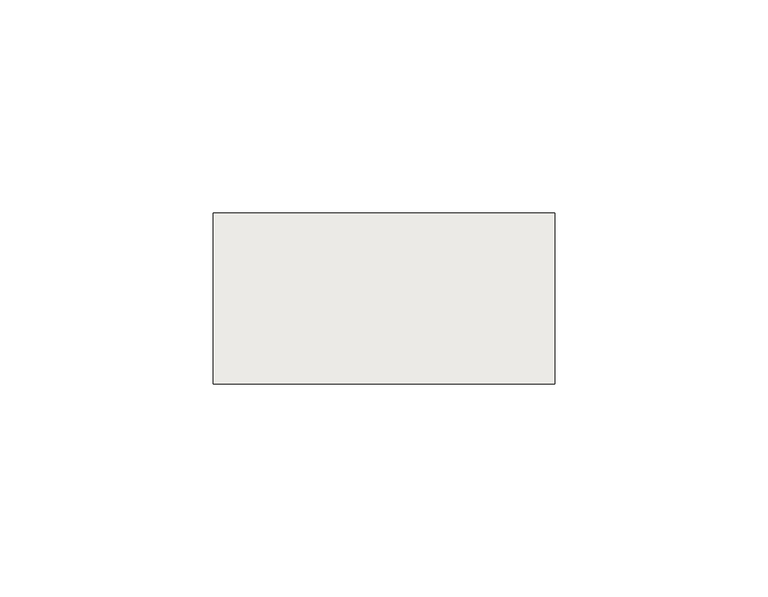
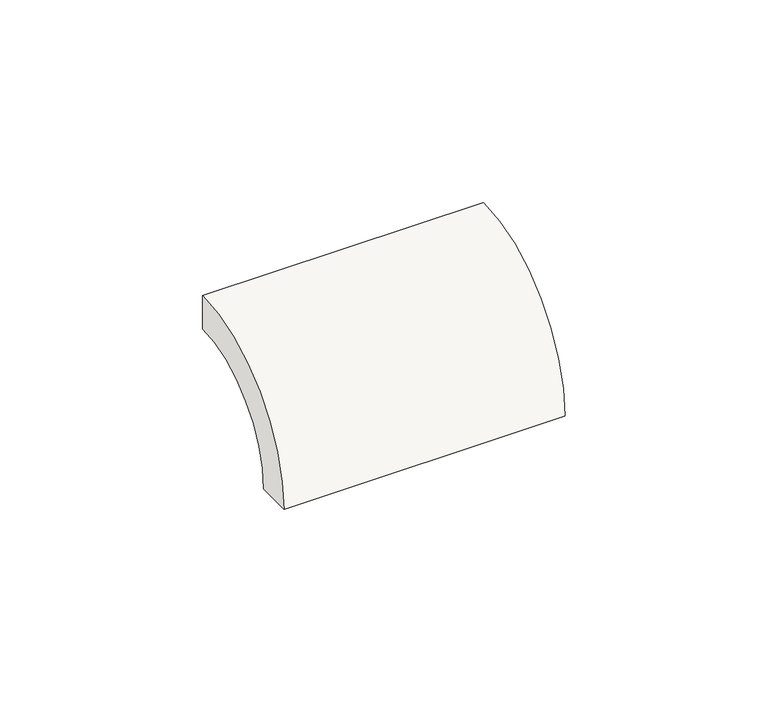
"""IFC4 building model written with IfcOpenShell, lengths in millimetres: slab geometry, ROSA GRES_138 : Pieza 138_Aqua_Marino_Liso."""

from ifc_helpers import new_model, si_unit, point, frame, frame_2d, origin, origin_2d, place, context, project, spatial, polyline, circle_curve, trimmed, segment, composite_curve, outline, extrude, source, transform, mapped, element, save


def slab_c012ca34(model_context):
    return source(origin(), model_context, "Body", "SweptSolid", [
        extrude(outline(composite_curve([segment(polyline([(0.0, 40.0), (0.0, 30.0265886)]), True, "CONTINUOUS"), segment(trimmed(circle_curve(frame_2d((-0.0044453, 0.0044453)), 30.0221435), [point((0.0, 30.0265886))], [point((-30.0265886, 0.0))], True, "CARTESIAN"), True, "CONTINUOUS"), segment(polyline([(-30.0265886, 0.0), (-40.0, 0.0)]), True, "CONTINUOUS"), segment(trimmed(circle_curve(origin_2d(), 40.0), [point((-40.0, 0.0))], [point((0.0, 40.0))], False, "CARTESIAN"), True, "CONTINUOUS")], self_intersect=False)), frame((0.0, 0.0, 0.0), z_axis=(1.0, 0.0, 0.0), x_axis=(0.0, 1.0, 0.0)), (0.0, 0.0, 1.0), 80.0),
    ])


if __name__ == "__main__":
    model = new_model("IFC4")
    model_context = context("Model", 3, world=origin())
    ifc_project = project(units=[si_unit("LENGTHUNIT", "METRE", prefix="MILLI")], contexts=[model_context])
    site = spatial("IfcSite", under=ifc_project)
    building = spatial("IfcBuilding", under=site)
    placement = place(None, origin())
    slab_shape = slab_c012ca34(model_context)
    element("IfcSlab", 1, ObjectType="ROSA GRES_138 : Pieza 138_Aqua_Marino_Liso", at=placement, inside=building, context=model_context, shape_type="MappedRepresentation", body=[
        mapped(slab_shape, transform((0.0, 0.0, 0.0), x_axis=(1.0, 0.0, 0.0), y_axis=(0.0, 1.0, 0.0), z_axis=(0.0, 0.0, 1.0))),
    ])
    save(model, "model.ifc")
